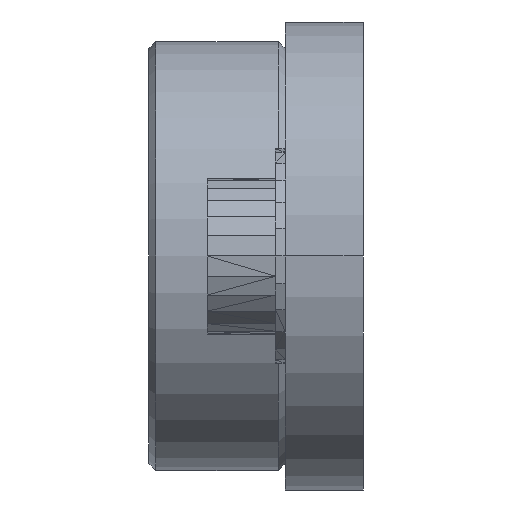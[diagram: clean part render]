
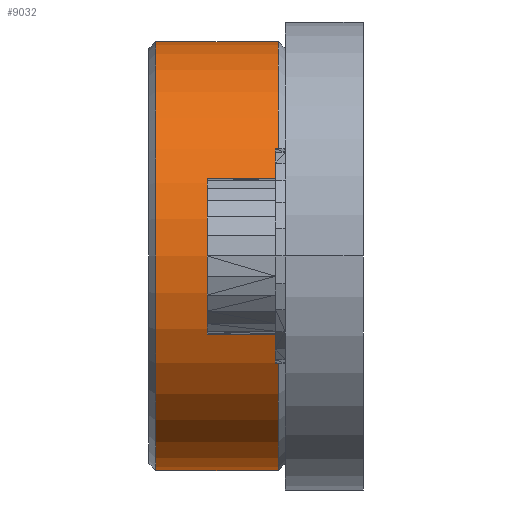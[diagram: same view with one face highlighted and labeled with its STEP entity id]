
A CAD part, left-side view. The second image highlights one B-rep face of the part: STEP entity #9032.
In plain terms, the highlighted cylindrical face has radius 11 mm (diameter 22 mm), a full revolution.
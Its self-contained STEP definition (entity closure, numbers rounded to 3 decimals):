
#678=CYLINDRICAL_SURFACE('',#9649,11.);
#724=LINE('',#13056,#1772);
#1772=VECTOR('',#10512,11.);
#2841=FACE_OUTER_BOUND('',#3384,.T.);
#3384=EDGE_LOOP('',(#6438,#6439,#6440,#6441,#6442));
#4003=CIRCLE('',#9643,11.);
#4005=CIRCLE('',#9646,11.);
#4007=CIRCLE('',#9648,11.);
#4201=VERTEX_POINT('',#13042);
#4203=VERTEX_POINT('',#13048);
#4204=VERTEX_POINT('',#13049);
#5051=EDGE_CURVE('',#4201,#4201,#4003,.T.);
#5054=EDGE_CURVE('',#4203,#4204,#4005,.T.);
#5057=EDGE_CURVE('',#4204,#4203,#4007,.T.);
#5058=EDGE_CURVE('',#4203,#4201,#724,.T.);
#6438=ORIENTED_EDGE('',*,*,#5054,.F.);
#6439=ORIENTED_EDGE('',*,*,#5058,.T.);
#6440=ORIENTED_EDGE('',*,*,#5051,.T.);
#6441=ORIENTED_EDGE('',*,*,#5058,.F.);
#6442=ORIENTED_EDGE('',*,*,#5057,.F.);
#9032=ADVANCED_FACE('',(#2841),#678,.T.);
#9643=AXIS2_PLACEMENT_3D('',#13043,#10496,#10497);
#9646=AXIS2_PLACEMENT_3D('',#13050,#10503,#10504);
#9648=AXIS2_PLACEMENT_3D('',#13054,#10508,#10509);
#9649=AXIS2_PLACEMENT_3D('',#13055,#10510,#10511);
#10496=DIRECTION('center_axis',(0.,0.,1.));
#10497=DIRECTION('ref_axis',(0.,-1.,0.));
#10503=DIRECTION('center_axis',(0.,0.,1.));
#10504=DIRECTION('ref_axis',(0.,-1.,0.));
#10508=DIRECTION('center_axis',(0.,0.,1.));
#10509=DIRECTION('ref_axis',(0.,-1.,0.));
#10510=DIRECTION('center_axis',(0.,0.,1.));
#10511=DIRECTION('ref_axis',(0.,-1.,0.));
#10512=DIRECTION('',(0.,0.,-1.));
#13042=CARTESIAN_POINT('',(0.,11.,-3.15));
#13043=CARTESIAN_POINT('Origin',(0.,0.,-3.15));
#13048=CARTESIAN_POINT('',(0.,11.,3.15));
#13049=CARTESIAN_POINT('',(0.,-11.,3.15));
#13050=CARTESIAN_POINT('Origin',(0.,0.,3.15));
#13054=CARTESIAN_POINT('Origin',(0.,0.,3.15));
#13055=CARTESIAN_POINT('Origin',(0.,0.,3.5));
#13056=CARTESIAN_POINT('',(0.,11.,3.5));
